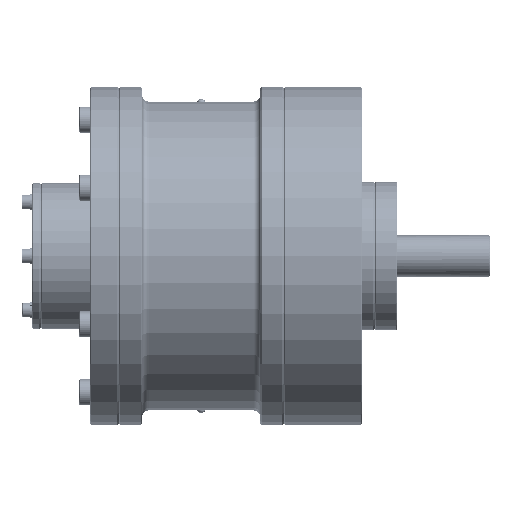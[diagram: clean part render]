
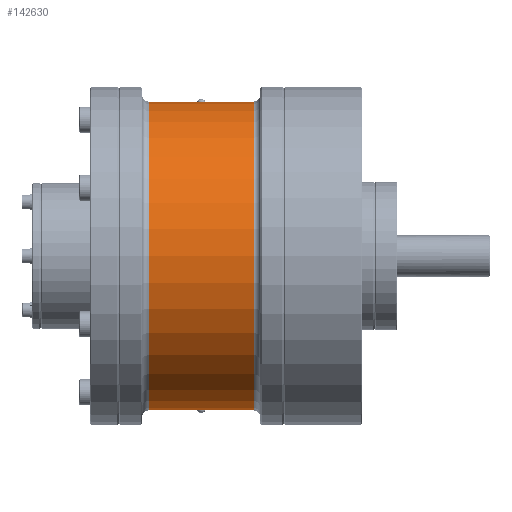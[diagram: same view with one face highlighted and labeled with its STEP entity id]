
A CAD part, front view. The second image highlights one B-rep face of the part: STEP entity #142630.
In plain terms, the highlighted cylindrical face has radius 59.5 mm (diameter 119 mm), a partial arc.
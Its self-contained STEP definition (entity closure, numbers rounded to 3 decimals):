
#3639 = CARTESIAN_POINT ( 'NONE',  ( 17.5, 0., 59.5 ) ) ;
#5900 = CARTESIAN_POINT ( 'NONE',  ( 17.5, 0., -59.5 ) ) ;
#6437 = ORIENTED_EDGE ( 'NONE', *, *, #125570, .F. ) ;
#7390 = LINE ( 'NONE', #49328, #69683 ) ;
#8183 = ORIENTED_EDGE ( 'NONE', *, *, #55543, .T. ) ;
#11774 = EDGE_CURVE ( 'NONE', #202135, #225053, #126983, .T. ) ;
#13801 = VERTEX_POINT ( 'NONE', #113535 ) ;
#15257 = DIRECTION ( 'NONE',  ( 1., 0., 0. ) ) ;
#18659 = EDGE_CURVE ( 'NONE', #229929, #202135, #104927, .T. ) ;
#25796 = CARTESIAN_POINT ( 'NONE',  ( -17.5, 0., 59.5 ) ) ;
#36065 = ORIENTED_EDGE ( 'NONE', *, *, #18659, .T. ) ;
#44707 = VERTEX_POINT ( 'NONE', #247677 ) ;
#45536 = ORIENTED_EDGE ( 'NONE', *, *, #162207, .T. ) ;
#49328 = CARTESIAN_POINT ( 'NONE',  ( -22.75, 0., 59.5 ) ) ;
#51668 = CIRCLE ( 'NONE', #252263, 59.5 ) ;
#52012 = EDGE_LOOP ( 'NONE', ( #68028, #8183, #36065, #71001, #45536, #237805, #6437, #147960 ) ) ;
#54150 = DIRECTION ( 'NONE',  ( -1., 0., 0. ) ) ;
#55543 = EDGE_CURVE ( 'NONE', #44707, #229929, #107631, .T. ) ;
#66543 = VERTEX_POINT ( 'NONE', #3639 ) ;
#67489 = CARTESIAN_POINT ( 'NONE',  ( -15., 0., -59.5 ) ) ;
#68028 = ORIENTED_EDGE ( 'NONE', *, *, #150526, .F. ) ;
#69243 = VERTEX_POINT ( 'NONE', #78894 ) ;
#69683 = VECTOR ( 'NONE', #129602, 1000. ) ;
#71001 = ORIENTED_EDGE ( 'NONE', *, *, #11774, .T. ) ;
#74861 = CYLINDRICAL_SURFACE ( 'NONE', #189423, 59.5 ) ;
#78894 = CARTESIAN_POINT ( 'NONE',  ( 20.25, 0., 59.5 ) ) ;
#79915 = VECTOR ( 'NONE', #211548, 1000. ) ;
#81897 = CARTESIAN_POINT ( 'NONE',  ( -20.25, 0., 0. ) ) ;
#95184 = DIRECTION ( 'NONE',  ( 0., 0., -1. ) ) ;
#98179 = EDGE_CURVE ( 'NONE', #13801, #69243, #51668, .T. ) ;
#98765 = CARTESIAN_POINT ( 'NONE',  ( -22.75, 0., 0. ) ) ;
#103296 = DIRECTION ( 'NONE',  ( 1., 0., 0. ) ) ;
#104927 = LINE ( 'NONE', #248319, #79915 ) ;
#107631 = CIRCLE ( 'NONE', #242099, 59.5 ) ;
#113535 = CARTESIAN_POINT ( 'NONE',  ( 20.25, 0., -59.5 ) ) ;
#116116 = CARTESIAN_POINT ( 'NONE',  ( -20.25, 0., -59.5 ) ) ;
#122039 = DIRECTION ( 'NONE',  ( 0., 0., -1. ) ) ;
#125570 = EDGE_CURVE ( 'NONE', #66543, #69243, #221638, .T. ) ;
#126983 = LINE ( 'NONE', #67489, #167694 ) ;
#129602 = DIRECTION ( 'NONE',  ( 1., 0., 0. ) ) ;
#134524 = FACE_OUTER_BOUND ( 'NONE', #52012, .T. ) ;
#138072 = DIRECTION ( 'NONE',  ( 1., 0., 0. ) ) ;
#139004 = VECTOR ( 'NONE', #103296, 1000. ) ;
#142630 = ADVANCED_FACE ( 'NONE', ( #134524 ), #74861, .T. ) ;
#147960 = ORIENTED_EDGE ( 'NONE', *, *, #181569, .F. ) ;
#150526 = EDGE_CURVE ( 'NONE', #44707, #238929, #7390, .T. ) ;
#152046 = CARTESIAN_POINT ( 'NONE',  ( -17.5, 0., -59.5 ) ) ;
#158051 = CARTESIAN_POINT ( 'NONE',  ( 20.25, 0., 0. ) ) ;
#162207 = EDGE_CURVE ( 'NONE', #225053, #13801, #192076, .T. ) ;
#165956 = CARTESIAN_POINT ( 'NONE',  ( -22.75, 0., 59.5 ) ) ;
#167694 = VECTOR ( 'NONE', #247439, 1000. ) ;
#181569 = EDGE_CURVE ( 'NONE', #238929, #66543, #183927, .T. ) ;
#183927 = LINE ( 'NONE', #254454, #249605 ) ;
#187203 = VECTOR ( 'NONE', #226242, 1000. ) ;
#189423 = AXIS2_PLACEMENT_3D ( 'NONE', #98765, #138072, #258558 ) ;
#192076 = LINE ( 'NONE', #223005, #139004 ) ;
#202135 = VERTEX_POINT ( 'NONE', #152046 ) ;
#211548 = DIRECTION ( 'NONE',  ( 1., 0., 0. ) ) ;
#221638 = LINE ( 'NONE', #165956, #187203 ) ;
#223005 = CARTESIAN_POINT ( 'NONE',  ( -22.75, 0., -59.5 ) ) ;
#223401 = DIRECTION ( 'NONE',  ( 1., 0., 0. ) ) ;
#225053 = VERTEX_POINT ( 'NONE', #5900 ) ;
#226242 = DIRECTION ( 'NONE',  ( 1., 0., 0. ) ) ;
#229929 = VERTEX_POINT ( 'NONE', #116116 ) ;
#237805 = ORIENTED_EDGE ( 'NONE', *, *, #98179, .T. ) ;
#238929 = VERTEX_POINT ( 'NONE', #25796 ) ;
#242099 = AXIS2_PLACEMENT_3D ( 'NONE', #81897, #223401, #122039 ) ;
#247439 = DIRECTION ( 'NONE',  ( 1., 0., 0. ) ) ;
#247677 = CARTESIAN_POINT ( 'NONE',  ( -20.25, 0., 59.5 ) ) ;
#248319 = CARTESIAN_POINT ( 'NONE',  ( -22.75, 0., -59.5 ) ) ;
#249605 = VECTOR ( 'NONE', #15257, 1000. ) ;
#252263 = AXIS2_PLACEMENT_3D ( 'NONE', #158051, #54150, #95184 ) ;
#254454 = CARTESIAN_POINT ( 'NONE',  ( -15., 0., 59.5 ) ) ;
#258558 = DIRECTION ( 'NONE',  ( 0., 0., -1. ) ) ;
